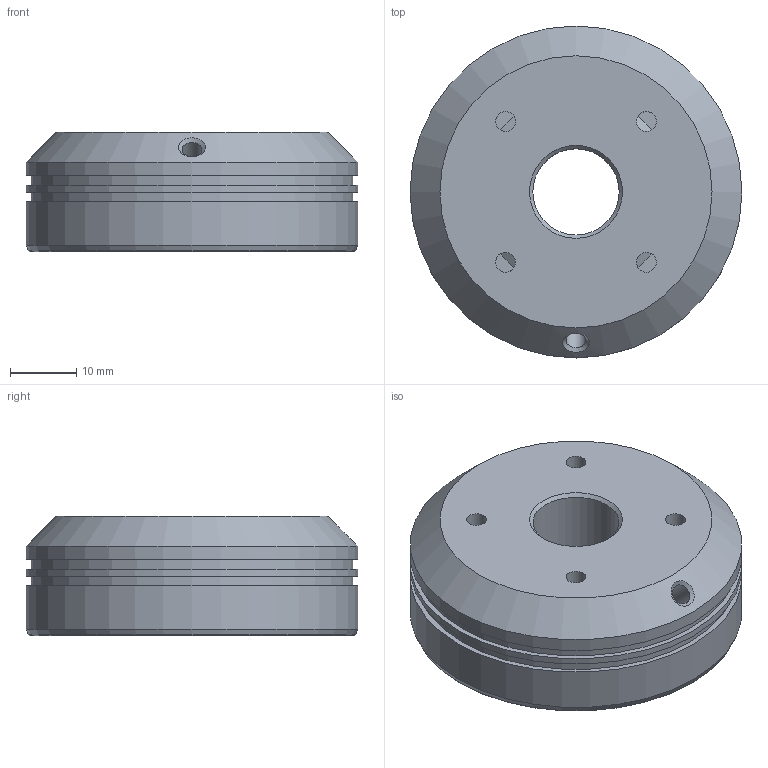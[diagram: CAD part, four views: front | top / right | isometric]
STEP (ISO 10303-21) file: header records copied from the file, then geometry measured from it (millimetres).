
FILE_DESCRIPTION((''),'2;1');
FILE_NAME('D:\上海创波-20181114\2-三维图纸\1-常用光源\WLDR系列\WLDR1系列-xxAGxx\WLDR-30AG50-.stp','2020-02-06T21:27:27',('Administrator'),(''),'Autodesk Inventor 2010','Autodesk Inventor 2010','');
FILE_SCHEMA(('AUTOMOTIVE_DESIGN { 1 0 10303 214 1 1 1 1 }'));
Length unit declared in the file: millimetre
Products named in the file (1): 零件4
Bounding box: 50 x 50 x 18 mm (x, y, z)
Volume: 17558.5 mm3; surface area: 15532.4 mm2
Topology: 20 solids, 20 shells, 382 faces, 1100 edges, 686 vertices
Faces by surface type: plane 184, cylinder 129, sphere 54, cone 14, bspline 1
Full cylindrical faces by diameter (mm): 1 x2, 2 x4, 3 x59, 13 x1, 18 x1, 20 x1, 41 x1, 45 x1, 48.5 x2, 50 x3
Entity records: 11718 total; most frequent: CARTESIAN_POINT 2797, DIRECTION 1718, ORIENTED_EDGE 1620, EDGE_CURVE 810, AXIS2_PLACEMENT_3D 724, EDGE_LOOP 569, VERTEX_POINT 547, STYLED_ITEM 401
